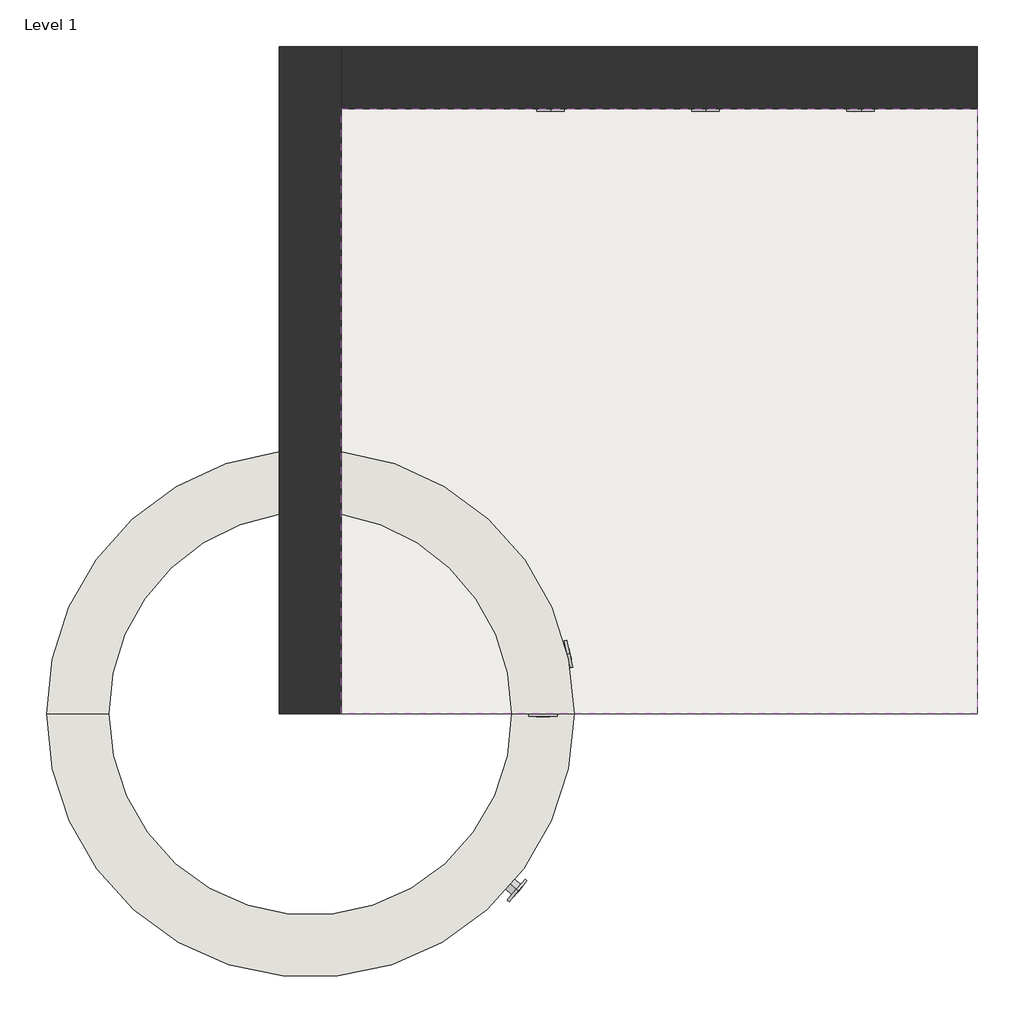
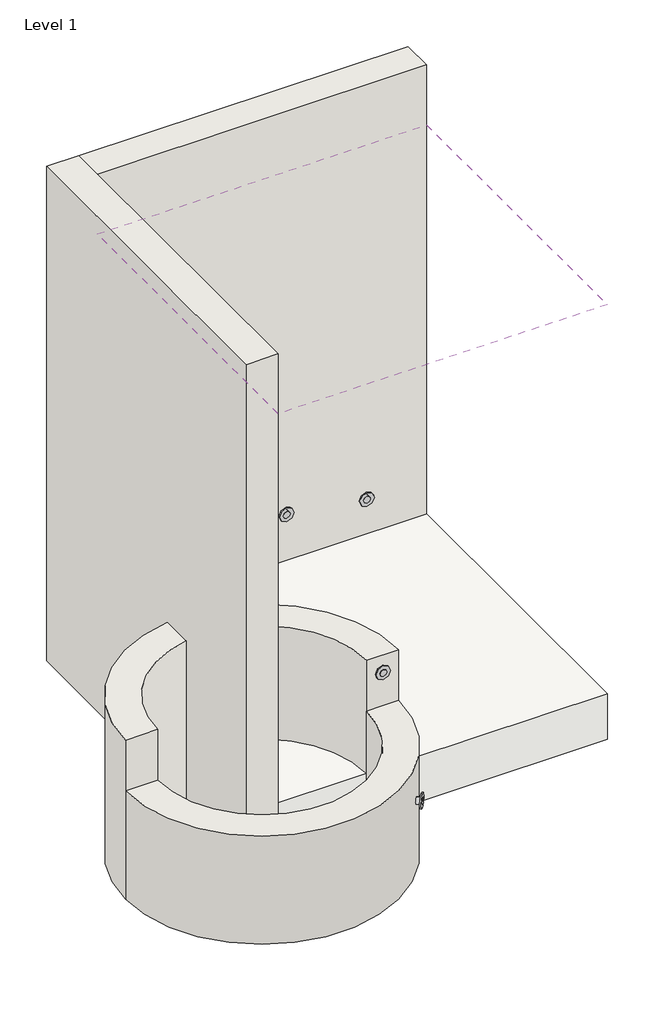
# One storey: 6 light fixtures, 4 walls, 1 covering, 1 slab.
"""IFC4 building model written with IfcOpenShell, lengths in millimetres."""

from ifc_helpers import new_model, si_unit, point, frame, frame_2d, origin, place, context, project, spatial, polyline, circle_curve, trimmed, segment, composite_curve, outline, extrude, faceted_brep, transform, mapped, element, save
from ifc_brep_helpers import plane_surface, cylinder_surface, revolved_surface, advanced_brep
from components import light_fixture_613aeaec

model = new_model("IFC4")

# Units and contexts
model_context = context("Model", 3, world=origin())
ifc_project = project(units=[si_unit("LENGTHUNIT", "METRE", prefix="MILLI")], contexts=[model_context])

# Site, building, storey
site = spatial("IfcSite", under=ifc_project)
building = spatial("IfcBuilding", under=site)
storey = spatial("IfcBuildingStorey", under=building, Name="Level 1", Elevation=0.0)

# Covering
placement = place(None, origin())
element("IfcCovering", 1, ObjectType="Ceiling 2", at=placement, inside=storey, context=model_context, shape_type="SweptSolid", body=[
    extrude(outline(polyline([(4291.0676417, 3741.7404022), (4291.0676417, 1760.5404022), (2208.2676417, 1760.5404022), (2208.2676417, 3741.7404022), (4291.0676417, 3741.7404022)])), frame((0.0, 0.0, 2600.0), z_axis=(0.0, 0.0, 1.0), x_axis=(1.0, 0.0, 0.0)), (0.0, 0.0, 1.0), 25.4),
])

# Light fixtures
light_fixture_shape = light_fixture_613aeaec(model_context)
element("IfcLightFixture", 2, ObjectType="LSLDR00_SURFACE MOUNT BASIC : LSLDR00W-T40", at=placement, inside=storey, context=model_context, shape_type="MappedRepresentation", body=[
    mapped(light_fixture_shape, transform((2894.0676417, 3741.7404022, 451.6332892), x_axis=(1.0, 0.0, 0.0), y_axis=(0.0, 0.0, 1.0), z_axis=(0.0, -1.0, 0.0))),
])
element("IfcLightFixture", 3, ObjectType="LSLDR00_SURFACE MOUNT BASIC : LSLDR00W-T40", at=placement, inside=storey, context=model_context, shape_type="MappedRepresentation", body=[
    mapped(light_fixture_shape, transform((2781.414642, 1185.2661678, 196.9535544), x_axis=(0.6487864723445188, 0.7609705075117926, 0.0), y_axis=(0.0, 0.0, 1.0), z_axis=(0.7609705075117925, -0.6487864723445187, 0.0))),
])
element("IfcLightFixture", 4, ObjectType="LSLDR00_SURFACE MOUNT BASIC : LSLDR00W-T40", at=placement, inside=storey, context=model_context, shape_type="MappedRepresentation", body=[
    mapped(light_fixture_shape, transform((3402.0676417, 3741.7404022, 344.6698188), x_axis=(1.0, 0.0, 0.0), y_axis=(0.0, 0.0, 1.0), z_axis=(0.0, -1.0, 0.0))),
])
element("IfcLightFixture", 5, ObjectType="LSLDR00_SURFACE MOUNT BASIC : LSLDR00W-T40", at=placement, inside=storey, context=model_context, shape_type="MappedRepresentation", body=[
    mapped(light_fixture_shape, transform((3910.0676417, 3741.7404022, 268.0774628), x_axis=(1.0, 0.0, 0.0), y_axis=(0.0, 0.0, 1.0), z_axis=(0.0, -1.0, 0.0))),
])
element("IfcLightFixture", 6, ObjectType="LSLDR00_SURFACE MOUNT BASIC : LSLDR00W-T40", at=placement, inside=storey, context=model_context, shape_type="MappedRepresentation", body=[
    mapped(light_fixture_shape, transform((2947.8798992, 1955.9039041, 574.7937764), x_axis=(-0.22621989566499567, 0.9740762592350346, 0.0), y_axis=(0.0, 0.0, 1.0), z_axis=(0.9740762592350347, 0.22621989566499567, 0.0))),
])
element("IfcLightFixture", 7, ObjectType="LSLDR00_SURFACE MOUNT BASIC : LSLDR00W-T40", at=placement, inside=storey, context=model_context, shape_type="MappedRepresentation", body=[
    mapped(light_fixture_shape, transform((2902.4669299, 1760.5404022, 643.0892975), x_axis=(0.0, 0.0, -1.0), y_axis=(1.0, 0.0, 0.0), z_axis=(0.0, -1.0, 0.0))),
])

# Slab
element("IfcSlab", 8, ObjectType="Floor 1", at=placement, inside=storey, context=model_context, shape_type="SweptSolid", body=[
    extrude(outline(polyline([(4291.0676417, 3741.7404022), (4291.0676417, 1760.5404022), (2208.2676417, 1760.5404022), (2208.2676417, 3741.7404022), (4291.0676417, 3741.7404022)])), frame((0.0, 0.0, -304.8), z_axis=(0.0, 0.0, 1.0), x_axis=(1.0, 0.0, 0.0)), (0.0, 0.0, 1.0), 304.8),
])

# Walls
element("IfcWall", 9, ObjectType="Wall 1", at=placement, inside=storey, context=model_context, shape_type="Brep", body=[
    faceted_brep([(2005.0676417, 3944.9404022, -304.8), (2005.0676417, 2618.1431074, -304.8), (2005.0676417, 2413.0782172, -304.8), (2005.0676417, 1760.5404022, -304.8), (2005.0676417, 1760.5404022, 3000.0), (2005.0676417, 3944.9404022, 3000.0), (2208.2676417, 3944.9404022, -304.8), (2208.2676417, 3944.9404022, 3000.0), (2208.2676417, 3741.7404022, 3000.0), (2208.2676417, 1760.5404022, 3000.0), (2208.2676417, 1760.5404022, -304.8), (2208.2676417, 2413.0782172, -304.8), (2208.2676417, 2618.1431074, -304.8), (2208.2676417, 3741.7404022, -304.8)], [[[0, 1, 2, 3, 4, 5]], [[6, 7, 8, 9, 10, 11, 12, 13]], [[3, 2, 1, 0, 6, 13, 12, 11, 10]], [[4, 3, 10, 9]], [[5, 4, 9, 8, 7]], [[0, 5, 7, 6]]]),
])
element("IfcWall", 10, ObjectType="Wall 1", at=placement, inside=storey, context=model_context, shape_type="SweptSolid", body=[
    extrude(outline(polyline([(4291.0676417, 3741.7404022), (2208.2676417, 3741.7404022), (2208.2676417, 3944.9404022), (4291.0676417, 3944.9404022), (4291.0676417, 3741.7404022)])), frame((0.0, 0.0, -304.8), z_axis=(0.0, 0.0, 1.0), x_axis=(1.0, 0.0, 0.0)), (0.0, 0.0, 1.0), 3304.8),
])
element("IfcWall", 11, ObjectType="Wall 1", at=placement, inside=storey, context=model_context, shape_type="AdvancedBrep", body=[
    advanced_brep(
    [(2767.0676417, 1760.5404022, 757.340831), (2970.2676417, 1760.5404022, 757.340831), (2208.2676417, 2618.1431074, 757.340831), (2208.2676417, 2413.0782172, 757.340831), (2970.2676417, 1760.5404022, -304.8), (2767.0676417, 1760.5404022, -304.8), (2208.2676417, 2413.0782172, -304.8), (2208.2676417, 2618.1431074, -304.8), (2767.0676417, 1760.5404022, 417.834001), (2970.2676417, 1760.5404022, 417.834001)],
    [
        (0, 1),
        (1, 2, circle_curve(frame((2106.6676417, 1760.5404022, 757.340831), z_axis=(0.0, 0.0, 1.0), x_axis=(1.0, 0.0, 0.0)), 863.6)),
        (2, 3),
        (3, 0, circle_curve(frame((2106.6676417, 1760.5404022, 757.340831), z_axis=(0.0, 0.0, -1.0), x_axis=(1.0, 0.0, 0.0)), 660.4)),
        (4, 5),
        (5, 6, circle_curve(frame((2106.6676417, 1760.5404022, -304.8), z_axis=(0.0, 0.0, 1.0), x_axis=(1.0, 0.0, 0.0)), 660.4)),
        (6, 7),
        (7, 4, circle_curve(frame((2106.6676417, 1760.5404022, -304.8), z_axis=(0.0, 0.0, -1.0), x_axis=(1.0, 0.0, 0.0)), 863.6)),
        (5, 8),
        (8, 0),
        (3, 6),
        (4, 9),
        (9, 1),
        (7, 2),
    ],
    [
        plane_surface(frame((2767.0676417, 1760.5404022, 757.340831), z_axis=(0.0, 0.0, 1.0), x_axis=(0.0, -1.0, 0.0))),
        plane_surface(frame((2767.0676417, 1760.5404022, -304.8), z_axis=(0.0, 0.0, -1.0), x_axis=(0.0, 1.0, 0.0))),
        revolved_surface(polyline([(2767.0676417, 1760.5404022, -304.8), (2767.0676417, 1760.5404022, 757.340831)]), (2106.6676417, 1760.5404022, -304.8), (0.0, 0.0, -1.0)),
        plane_surface(frame((2767.0676417, 1760.5404022, 757.340831), z_axis=(0.0, -1.0, 0.0), x_axis=(0.0, 0.0, -1.0))),
        cylinder_surface(frame((2106.6676417, 1760.5404022, -304.8), z_axis=(0.0, 0.0, 1.0), x_axis=(1.0, 0.0, 0.0)), 863.6),
        plane_surface(frame((2208.2676417, 3741.7404022, -304.8), z_axis=(-1.0, 0.0, 0.0), x_axis=(0.0, 1.0, 0.0))),
    ],
    [
        (0, [[1, 2, 3, 4]]),
        (1, [[5, 6, 7, 8]]),
        (2, [[9, 10, -4, 11, -6]]),
        (3, [[-1, -10, -9, -5, 12, 13]]),
        (4, [[-13, -12, -8, 14, -2]]),
        (5, [[-3, -14, -7, -11]]),
    ],
),
    advanced_brep(
    [(1243.0676417, 1760.5404022, 757.340831), (1446.2676417, 1760.5404022, 757.340831), (2005.0676417, 2413.0782172, 757.340831), (2005.0676417, 2618.1431074, 757.340831), (1446.2676417, 1760.5404022, -304.8), (1243.0676417, 1760.5404022, -304.8), (2005.0676417, 2618.1431074, -304.8), (2005.0676417, 2413.0782172, -304.8), (1446.2676417, 1760.5404022, 417.834001), (1243.0676417, 1760.5404022, 417.834001)],
    [
        (0, 1),
        (1, 2, circle_curve(frame((2106.6676417, 1760.5404022, 757.340831), z_axis=(0.0, 0.0, -1.0), x_axis=(1.0, 0.0, 0.0)), 660.4)),
        (2, 3),
        (3, 0, circle_curve(frame((2106.6676417, 1760.5404022, 757.340831), z_axis=(0.0, 0.0, 1.0), x_axis=(1.0, 0.0, 0.0)), 863.6)),
        (4, 5),
        (5, 6, circle_curve(frame((2106.6676417, 1760.5404022, -304.8), z_axis=(0.0, 0.0, -1.0), x_axis=(1.0, 0.0, 0.0)), 863.6)),
        (6, 7),
        (7, 4, circle_curve(frame((2106.6676417, 1760.5404022, -304.8), z_axis=(0.0, 0.0, 1.0), x_axis=(1.0, 0.0, 0.0)), 660.4)),
        (1, 8),
        (8, 4),
        (7, 2),
        (5, 9),
        (9, 0),
        (3, 6),
    ],
    [
        plane_surface(frame((2767.0676417, 1760.5404022, 757.340831), z_axis=(0.0, 0.0, 1.0), x_axis=(0.0, -1.0, 0.0))),
        plane_surface(frame((2767.0676417, 1760.5404022, -304.8), z_axis=(0.0, 0.0, -1.0), x_axis=(0.0, 1.0, 0.0))),
        revolved_surface(polyline([(2767.0676417, 1760.5404022, -304.8), (2767.0676417, 1760.5404022, 757.340831)]), (2106.6676417, 1760.5404022, -304.8), (0.0, 0.0, -1.0)),
        cylinder_surface(frame((2106.6676417, 1760.5404022, -304.8), z_axis=(0.0, 0.0, 1.0), x_axis=(1.0, 0.0, 0.0)), 863.6),
        plane_surface(frame((1243.0676417, 1760.5404022, 757.340831), z_axis=(0.0, -1.0, 0.0), x_axis=(0.0, 0.0, -1.0))),
        plane_surface(frame((2005.0676417, 3741.7404022, -304.8), z_axis=(1.0, 0.0, 0.0), x_axis=(0.0, -1.0, 0.0))),
    ],
    [
        (0, [[1, 2, 3, 4]]),
        (1, [[5, 6, 7, 8]]),
        (2, [[9, 10, -8, 11, -2]]),
        (3, [[12, 13, -4, 14, -6]]),
        (4, [[-1, -13, -12, -5, -10, -9]]),
        (5, [[-3, -11, -7, -14]]),
    ],
),
])
element("IfcWall", 12, ObjectType="Wall 1", at=placement, inside=storey, context=model_context, shape_type="SweptSolid", body=[
    extrude(outline(composite_curve([segment(polyline([(2767.0676417, 1760.5404022), (2970.2676417, 1760.5404022)]), True, "CONTINUOUS"), segment(trimmed(circle_curve(frame_2d((2106.6676417, 1760.5404022)), 863.6), [point((2970.2676417, 1760.5404022))], [point((1243.0676417, 1760.5404022))], False, "CARTESIAN"), True, "CONTINUOUS"), segment(polyline([(1243.0676417, 1760.5404022), (1446.2676417, 1760.5404022)]), True, "CONTINUOUS"), segment(trimmed(circle_curve(frame_2d((2106.6676417, 1760.5404022)), 660.4), [point((1446.2676417, 1760.5404022))], [point((2767.0676417, 1760.5404022))], True, "CARTESIAN"), True, "CONTINUOUS")], self_intersect=False)), frame((0.0, 0.0, -304.8), z_axis=(0.0, 0.0, 1.0), x_axis=(1.0, 0.0, 0.0)), (0.0, 0.0, 1.0), 722.634001),
])

save(model, "model.ifc")
